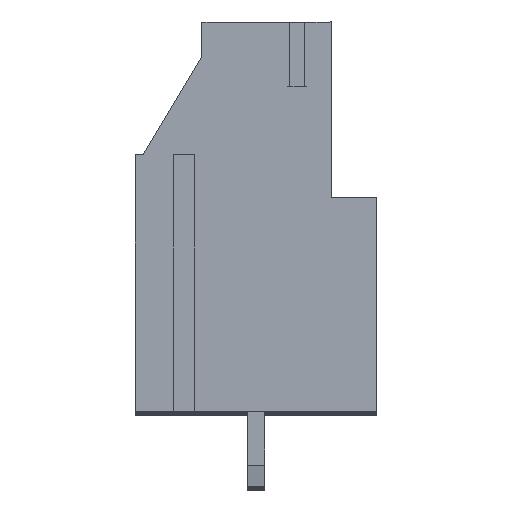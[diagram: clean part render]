
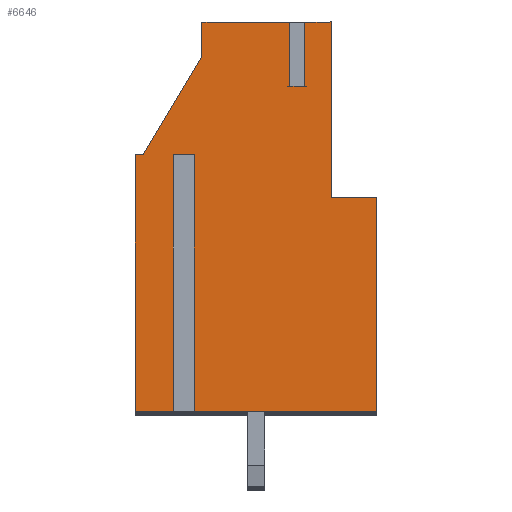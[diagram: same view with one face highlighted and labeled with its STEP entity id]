
A CAD part, top view. The second image highlights one B-rep face of the part: STEP entity #6646.
In plain terms, the highlighted planar face has unit normal (0, 0, 1).
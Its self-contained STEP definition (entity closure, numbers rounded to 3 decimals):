
#4 = CARTESIAN_POINT ( 'NONE',  ( -8.221, 2.25, 25.38 ) ) ;
#91 = EDGE_CURVE ( 'NONE', #5328, #4162, #8040, .T. ) ;
#163 = EDGE_CURVE ( 'NONE', #5328, #917, #2658, .T. ) ;
#309 = EDGE_CURVE ( 'NONE', #2443, #9424, #1889, .T. ) ;
#339 = VERTEX_POINT ( 'NONE', #3931 ) ;
#369 = DIRECTION ( 'NONE',  ( 1., 0., 0. ) ) ;
#389 = VECTOR ( 'NONE', #5989, 1000. ) ;
#430 = LINE ( 'NONE', #9930, #12304 ) ;
#495 = VERTEX_POINT ( 'NONE', #10103 ) ;
#531 = VECTOR ( 'NONE', #8294, 1000. ) ;
#689 = EDGE_CURVE ( 'NONE', #1911, #4162, #1681, .T. ) ;
#733 = VECTOR ( 'NONE', #10800, 1000. ) ;
#776 = CARTESIAN_POINT ( 'NONE',  ( -10.15, -0.15, 25.38 ) ) ;
#917 = VERTEX_POINT ( 'NONE', #7947 ) ;
#1286 = CARTESIAN_POINT ( 'NONE',  ( -4.9, 9.85, 25.38 ) ) ;
#1490 = CARTESIAN_POINT ( 'NONE',  ( 1.15, -0.15, 25.38 ) ) ;
#1505 = ORIENTED_EDGE ( 'NONE', *, *, #5886, .T. ) ;
#1516 = VECTOR ( 'NONE', #5627, 1000. ) ;
#1681 = LINE ( 'NONE', #2513, #3815 ) ;
#1713 = CARTESIAN_POINT ( 'NONE',  ( -4.9, 18.05, 25.38 ) ) ;
#1873 = CARTESIAN_POINT ( 'NONE',  ( -8.221, 11.85, 25.38 ) ) ;
#1889 = LINE ( 'NONE', #2846, #733 ) ;
#1910 = LINE ( 'NONE', #4, #6697 ) ;
#1911 = VERTEX_POINT ( 'NONE', #5913 ) ;
#1934 = LINE ( 'NONE', #7575, #10457 ) ;
#2013 = CARTESIAN_POINT ( 'NONE',  ( -0.975, 2.25, 25.38 ) ) ;
#2137 = LINE ( 'NONE', #8736, #389 ) ;
#2257 = CARTESIAN_POINT ( 'NONE',  ( 12.475, -0.15, 25.38 ) ) ;
#2262 = LINE ( 'NONE', #7383, #10148 ) ;
#2314 = EDGE_CURVE ( 'NONE', #2443, #495, #6864, .T. ) ;
#2362 = ORIENTED_EDGE ( 'NONE', *, *, #91, .T. ) ;
#2443 = VERTEX_POINT ( 'NONE', #4341 ) ;
#2513 = CARTESIAN_POINT ( 'NONE',  ( 1.15, -13.55, 25.38 ) ) ;
#2632 = EDGE_CURVE ( 'NONE', #339, #7136, #6594, .T. ) ;
#2658 = LINE ( 'NONE', #11250, #11172 ) ;
#2846 = CARTESIAN_POINT ( 'NONE',  ( -9.775, 11.85, 25.38 ) ) ;
#2962 = VERTEX_POINT ( 'NONE', #10598 ) ;
#3162 = EDGE_CURVE ( 'NONE', #4492, #2962, #6358, .T. ) ;
#3176 = DIRECTION ( 'NONE',  ( 0., 1., 0. ) ) ;
#3295 = LINE ( 'NONE', #10420, #531 ) ;
#3407 = DIRECTION ( 'NONE',  ( 0., -1., 0. ) ) ;
#3532 = CARTESIAN_POINT ( 'NONE',  ( -0.975, 9.85, 25.38 ) ) ;
#3619 = LINE ( 'NONE', #4842, #10516 ) ;
#3806 = PLANE ( 'NONE',  #12042 ) ;
#3815 = VECTOR ( 'NONE', #3407, 1000. ) ;
#3877 = DIRECTION ( 'NONE',  ( 0., -1., 0. ) ) ;
#3931 = CARTESIAN_POINT ( 'NONE',  ( -7.025, 18.05, 25.38 ) ) ;
#4036 = EDGE_CURVE ( 'NONE', #4139, #10256, #2137, .T. ) ;
#4139 = VERTEX_POINT ( 'NONE', #9321 ) ;
#4162 = VERTEX_POINT ( 'NONE', #1490 ) ;
#4341 = CARTESIAN_POINT ( 'NONE',  ( -9.775, 11.85, 25.38 ) ) ;
#4475 = ORIENTED_EDGE ( 'NONE', *, *, #3162, .T. ) ;
#4492 = VERTEX_POINT ( 'NONE', #776 ) ;
#4750 = DIRECTION ( 'NONE',  ( 0., -1., 0. ) ) ;
#4842 = CARTESIAN_POINT ( 'NONE',  ( -2.921, 2.25, 25.38 ) ) ;
#4950 = ORIENTED_EDGE ( 'NONE', *, *, #4036, .F. ) ;
#5031 = ORIENTED_EDGE ( 'NONE', *, *, #163, .F. ) ;
#5328 = VERTEX_POINT ( 'NONE', #11453 ) ;
#5600 = EDGE_CURVE ( 'NONE', #10256, #12260, #430, .T. ) ;
#5611 = DIRECTION ( 'NONE',  ( 0., 1., 0. ) ) ;
#5627 = DIRECTION ( 'NONE',  ( 1., 0., 0. ) ) ;
#5645 = ORIENTED_EDGE ( 'NONE', *, *, #10197, .F. ) ;
#5818 = ORIENTED_EDGE ( 'NONE', *, *, #9132, .F. ) ;
#5874 = VERTEX_POINT ( 'NONE', #1873 ) ;
#5886 = EDGE_CURVE ( 'NONE', #339, #9424, #1934, .T. ) ;
#5913 = CARTESIAN_POINT ( 'NONE',  ( 1.15, 9.85, 25.38 ) ) ;
#5935 = FACE_OUTER_BOUND ( 'NONE', #10464, .T. ) ;
#5989 = DIRECTION ( 'NONE',  ( 1., 0., 0. ) ) ;
#6304 = CARTESIAN_POINT ( 'NONE',  ( -7.025, 16.45, 25.38 ) ) ;
#6358 = LINE ( 'NONE', #2257, #9522 ) ;
#6378 = CARTESIAN_POINT ( 'NONE',  ( -2.229, 15.05, 25.38 ) ) ;
#6594 = LINE ( 'NONE', #1713, #1516 ) ;
#6640 = DIRECTION ( 'NONE',  ( 0., -1., 0. ) ) ;
#6646 = ADVANCED_FACE ( 'NONE', ( #5935 ), #3806, .F. ) ;
#6697 = VECTOR ( 'NONE', #8830, 1000. ) ;
#6727 = CARTESIAN_POINT ( 'NONE',  ( -4.9, 18.05, 25.38 ) ) ;
#6864 = LINE ( 'NONE', #9885, #9312 ) ;
#6920 = VECTOR ( 'NONE', #6640, 1000. ) ;
#7136 = VERTEX_POINT ( 'NONE', #10091 ) ;
#7383 = CARTESIAN_POINT ( 'NONE',  ( -10.15, 2.25, 25.38 ) ) ;
#7458 = ORIENTED_EDGE ( 'NONE', *, *, #2632, .F. ) ;
#7575 = CARTESIAN_POINT ( 'NONE',  ( -7.025, 16.45, 25.38 ) ) ;
#7779 = DIRECTION ( 'NONE',  ( -1., 0., 0. ) ) ;
#7867 = DIRECTION ( 'NONE',  ( -1., 0., 0. ) ) ;
#7947 = CARTESIAN_POINT ( 'NONE',  ( -7.529, 11.85, 25.38 ) ) ;
#8040 = LINE ( 'NONE', #12112, #10970 ) ;
#8211 = ORIENTED_EDGE ( 'NONE', *, *, #9802, .F. ) ;
#8256 = CARTESIAN_POINT ( 'NONE',  ( -2.229, 18.05, 25.38 ) ) ;
#8294 = DIRECTION ( 'NONE',  ( -1., 0., 0. ) ) ;
#8324 = ORIENTED_EDGE ( 'NONE', *, *, #309, .F. ) ;
#8682 = ORIENTED_EDGE ( 'NONE', *, *, #2314, .T. ) ;
#8696 = DIRECTION ( 'NONE',  ( 1., 0., 0. ) ) ;
#8715 = VERTEX_POINT ( 'NONE', #3532 ) ;
#8736 = CARTESIAN_POINT ( 'NONE',  ( -4.9, 15.05, 25.38 ) ) ;
#8830 = DIRECTION ( 'NONE',  ( 0., -1., 0. ) ) ;
#9045 = DIRECTION ( 'NONE',  ( 1., 0., 0. ) ) ;
#9132 = EDGE_CURVE ( 'NONE', #7136, #4139, #3619, .T. ) ;
#9229 = ORIENTED_EDGE ( 'NONE', *, *, #11715, .F. ) ;
#9252 = DIRECTION ( 'NONE',  ( 1., 0., 0. ) ) ;
#9312 = VECTOR ( 'NONE', #7867, 1000. ) ;
#9321 = CARTESIAN_POINT ( 'NONE',  ( -2.921, 15.05, 25.38 ) ) ;
#9385 = EDGE_CURVE ( 'NONE', #4492, #495, #2262, .T. ) ;
#9420 = CARTESIAN_POINT ( 'NONE',  ( -0.975, 18.05, 25.38 ) ) ;
#9424 = VERTEX_POINT ( 'NONE', #6304 ) ;
#9522 = VECTOR ( 'NONE', #9252, 1000. ) ;
#9789 = CARTESIAN_POINT ( 'NONE',  ( -4.9, 2.25, 25.38 ) ) ;
#9802 = EDGE_CURVE ( 'NONE', #8715, #1911, #10083, .T. ) ;
#9885 = CARTESIAN_POINT ( 'NONE',  ( -10.075, 11.85, 25.38 ) ) ;
#9930 = CARTESIAN_POINT ( 'NONE',  ( -2.229, 2.25, 25.38 ) ) ;
#10083 = LINE ( 'NONE', #1286, #10965 ) ;
#10091 = CARTESIAN_POINT ( 'NONE',  ( -2.921, 18.05, 25.38 ) ) ;
#10103 = CARTESIAN_POINT ( 'NONE',  ( -10.15, 11.85, 25.38 ) ) ;
#10148 = VECTOR ( 'NONE', #10282, 1000. ) ;
#10197 = EDGE_CURVE ( 'NONE', #917, #5874, #3295, .T. ) ;
#10256 = VERTEX_POINT ( 'NONE', #6378 ) ;
#10282 = DIRECTION ( 'NONE',  ( 0., 1., 0. ) ) ;
#10339 = ORIENTED_EDGE ( 'NONE', *, *, #689, .F. ) ;
#10420 = CARTESIAN_POINT ( 'NONE',  ( -4.9, 11.85, 25.38 ) ) ;
#10457 = VECTOR ( 'NONE', #4750, 1000. ) ;
#10464 = EDGE_LOOP ( 'NONE', ( #10339, #8211, #9229, #10952, #12200, #4950, #5818, #7458, #1505, #8324, #8682, #12050, #4475, #10892, #5645, #5031, #2362 ) ) ;
#10516 = VECTOR ( 'NONE', #3877, 1000. ) ;
#10598 = CARTESIAN_POINT ( 'NONE',  ( -8.221, -0.15, 25.38 ) ) ;
#10733 = DIRECTION ( 'NONE',  ( 0., 0., -1. ) ) ;
#10742 = VERTEX_POINT ( 'NONE', #9420 ) ;
#10782 = VECTOR ( 'NONE', #8696, 1000. ) ;
#10787 = LINE ( 'NONE', #2013, #6920 ) ;
#10800 = DIRECTION ( 'NONE',  ( 0.513, 0.858, 0. ) ) ;
#10892 = ORIENTED_EDGE ( 'NONE', *, *, #11341, .F. ) ;
#10952 = ORIENTED_EDGE ( 'NONE', *, *, #11386, .F. ) ;
#10965 = VECTOR ( 'NONE', #9045, 1000. ) ;
#10970 = VECTOR ( 'NONE', #369, 1000. ) ;
#11172 = VECTOR ( 'NONE', #5611, 1000. ) ;
#11250 = CARTESIAN_POINT ( 'NONE',  ( -7.529, 2.25, 25.38 ) ) ;
#11341 = EDGE_CURVE ( 'NONE', #5874, #2962, #1910, .T. ) ;
#11386 = EDGE_CURVE ( 'NONE', #12260, #10742, #11590, .T. ) ;
#11453 = CARTESIAN_POINT ( 'NONE',  ( -7.529, -0.15, 25.38 ) ) ;
#11590 = LINE ( 'NONE', #6727, #10782 ) ;
#11715 = EDGE_CURVE ( 'NONE', #10742, #8715, #10787, .T. ) ;
#12042 = AXIS2_PLACEMENT_3D ( 'NONE', #9789, #10733, #7779 ) ;
#12050 = ORIENTED_EDGE ( 'NONE', *, *, #9385, .F. ) ;
#12112 = CARTESIAN_POINT ( 'NONE',  ( 12.475, -0.15, 25.38 ) ) ;
#12200 = ORIENTED_EDGE ( 'NONE', *, *, #5600, .F. ) ;
#12260 = VERTEX_POINT ( 'NONE', #8256 ) ;
#12304 = VECTOR ( 'NONE', #3176, 1000. ) ;
